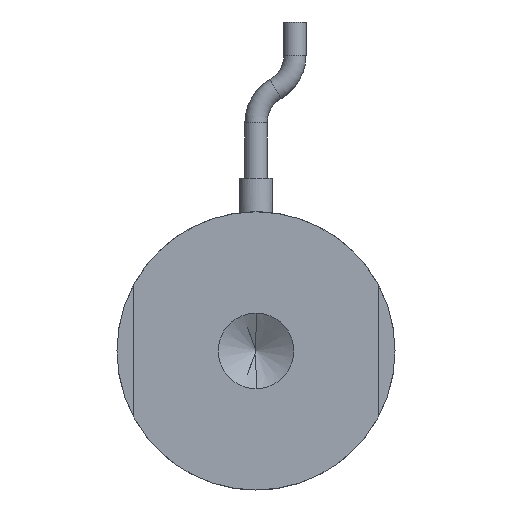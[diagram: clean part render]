
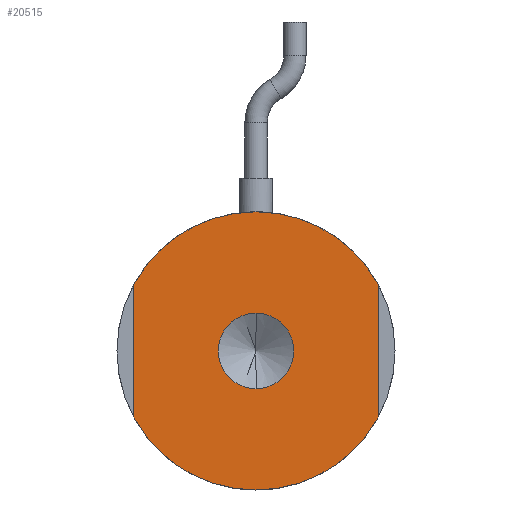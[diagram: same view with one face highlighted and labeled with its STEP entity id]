
A CAD part, front view. The second image highlights one B-rep face of the part: STEP entity #20515.
In plain terms, the highlighted planar face has unit normal (0, -1, 0).
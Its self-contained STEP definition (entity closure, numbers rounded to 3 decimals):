
#1213 = DIRECTION ( 'NONE',  ( 0., 0., 1. ) ) ;
#1775 = CARTESIAN_POINT ( 'NONE',  ( -11., 0., -5.937 ) ) ;
#2096 = PLANE ( 'NONE',  #8900 ) ;
#2447 = FACE_OUTER_BOUND ( 'NONE', #17289, .T. ) ;
#2678 = AXIS2_PLACEMENT_3D ( 'NONE', #19397, #19336, #19300 ) ;
#4291 = ORIENTED_EDGE ( 'NONE', *, *, #35099, .F. ) ;
#4948 = ORIENTED_EDGE ( 'NONE', *, *, #5203, .F. ) ;
#5009 = DIRECTION ( 'NONE',  ( 0., 1., 0. ) ) ;
#5203 = EDGE_CURVE ( 'NONE', #18637, #5241, #36929, .T. ) ;
#5241 = VERTEX_POINT ( 'NONE', #19136 ) ;
#6157 = EDGE_CURVE ( 'NONE', #27305, #32333, #23958, .T. ) ;
#8900 = AXIS2_PLACEMENT_3D ( 'NONE', #26846, #16350, #40645 ) ;
#9290 = ORIENTED_EDGE ( 'NONE', *, *, #39636, .F. ) ;
#10566 = CARTESIAN_POINT ( 'NONE',  ( 0., 0., 0. ) ) ;
#11174 = EDGE_CURVE ( 'NONE', #36589, #18637, #38900, .T. ) ;
#11425 = DIRECTION ( 'NONE',  ( 0., -1., 0. ) ) ;
#11738 = CARTESIAN_POINT ( 'NONE',  ( -11., 0., 0. ) ) ;
#12070 = LINE ( 'NONE', #11738, #38812 ) ;
#12217 = AXIS2_PLACEMENT_3D ( 'NONE', #43083, #22414, #1213 ) ;
#13698 = ORIENTED_EDGE ( 'NONE', *, *, #19222, .F. ) ;
#14183 = DIRECTION ( 'NONE',  ( 0., 0., -1. ) ) ;
#15239 = AXIS2_PLACEMENT_3D ( 'NONE', #26247, #5009, #29717 ) ;
#15361 = DIRECTION ( 'NONE',  ( 0., 0., 1. ) ) ;
#15706 = CARTESIAN_POINT ( 'NONE',  ( 11., 0., -5.937 ) ) ;
#16350 = DIRECTION ( 'NONE',  ( 0., 1., 0. ) ) ;
#17252 = CARTESIAN_POINT ( 'NONE',  ( 0., 0., 3.4 ) ) ;
#17289 = EDGE_LOOP ( 'NONE', ( #19381, #27179, #27961, #9290, #4948, #29071 ) ) ;
#17950 = AXIS2_PLACEMENT_3D ( 'NONE', #32526, #11425, #35955 ) ;
#17990 = VECTOR ( 'NONE', #22412, 1000. ) ;
#18151 = VERTEX_POINT ( 'NONE', #17252 ) ;
#18637 = VERTEX_POINT ( 'NONE', #33448 ) ;
#18864 = CARTESIAN_POINT ( 'NONE',  ( 11., 0., 0. ) ) ;
#19136 = CARTESIAN_POINT ( 'NONE',  ( 11., 0., 5.937 ) ) ;
#19222 = EDGE_CURVE ( 'NONE', #19656, #18151, #37588, .T. ) ;
#19300 = DIRECTION ( 'NONE',  ( 0., 0., 1. ) ) ;
#19336 = DIRECTION ( 'NONE',  ( 0., 1., 0. ) ) ;
#19381 = ORIENTED_EDGE ( 'NONE', *, *, #29524, .F. ) ;
#19397 = CARTESIAN_POINT ( 'NONE',  ( 0., 0., 0. ) ) ;
#19656 = VERTEX_POINT ( 'NONE', #42769 ) ;
#20515 = ADVANCED_FACE ( 'NONE', ( #39695, #2447 ), #2096, .F. ) ;
#20798 = AXIS2_PLACEMENT_3D ( 'NONE', #26944, #26858, #26799 ) ;
#21016 = EDGE_LOOP ( 'NONE', ( #13698, #4291 ) ) ;
#22412 = DIRECTION ( 'NONE',  ( 0., 0., -1. ) ) ;
#22414 = DIRECTION ( 'NONE',  ( 0., 1., 0. ) ) ;
#23766 = CIRCLE ( 'NONE', #12217, 12.5 ) ;
#23958 = CIRCLE ( 'NONE', #20798, 12.5 ) ;
#26247 = CARTESIAN_POINT ( 'NONE',  ( 0., 0., 0. ) ) ;
#26276 = LINE ( 'NONE', #18864, #17990 ) ;
#26799 = DIRECTION ( 'NONE',  ( 0., 0., 1. ) ) ;
#26846 = CARTESIAN_POINT ( 'NONE',  ( 0., 0., 0. ) ) ;
#26858 = DIRECTION ( 'NONE',  ( 0., 1., 0. ) ) ;
#26944 = CARTESIAN_POINT ( 'NONE',  ( 0., 0., 0. ) ) ;
#27179 = ORIENTED_EDGE ( 'NONE', *, *, #6157, .F. ) ;
#27305 = VERTEX_POINT ( 'NONE', #27813 ) ;
#27813 = CARTESIAN_POINT ( 'NONE',  ( 0., 0., -12.5 ) ) ;
#27961 = ORIENTED_EDGE ( 'NONE', *, *, #31485, .F. ) ;
#29071 = ORIENTED_EDGE ( 'NONE', *, *, #11174, .F. ) ;
#29524 = EDGE_CURVE ( 'NONE', #32333, #36589, #12070, .T. ) ;
#29717 = DIRECTION ( 'NONE',  ( 0., 0., 1. ) ) ;
#31485 = EDGE_CURVE ( 'NONE', #37617, #27305, #23766, .T. ) ;
#32333 = VERTEX_POINT ( 'NONE', #1775 ) ;
#32526 = CARTESIAN_POINT ( 'NONE',  ( 0., 0., 0. ) ) ;
#33448 = CARTESIAN_POINT ( 'NONE',  ( 0., 0., 12.5 ) ) ;
#33941 = CARTESIAN_POINT ( 'NONE',  ( -11., 0., 5.937 ) ) ;
#35099 = EDGE_CURVE ( 'NONE', #18151, #19656, #44688, .T. ) ;
#35118 = AXIS2_PLACEMENT_3D ( 'NONE', #10566, #35159, #14183 ) ;
#35159 = DIRECTION ( 'NONE',  ( 0., -1., 0. ) ) ;
#35955 = DIRECTION ( 'NONE',  ( 0., 0., -1. ) ) ;
#36589 = VERTEX_POINT ( 'NONE', #33941 ) ;
#36929 = CIRCLE ( 'NONE', #2678, 12.5 ) ;
#37588 = CIRCLE ( 'NONE', #35118, 3.4 ) ;
#37617 = VERTEX_POINT ( 'NONE', #15706 ) ;
#38812 = VECTOR ( 'NONE', #15361, 1000. ) ;
#38900 = CIRCLE ( 'NONE', #15239, 12.5 ) ;
#39636 = EDGE_CURVE ( 'NONE', #5241, #37617, #26276, .T. ) ;
#39695 = FACE_BOUND ( 'NONE', #21016, .T. ) ;
#40645 = DIRECTION ( 'NONE',  ( 0., 0., 1. ) ) ;
#42769 = CARTESIAN_POINT ( 'NONE',  ( 0., 0., -3.4 ) ) ;
#43083 = CARTESIAN_POINT ( 'NONE',  ( 0., 0., 0. ) ) ;
#44688 = CIRCLE ( 'NONE', #17950, 3.4 ) ;
